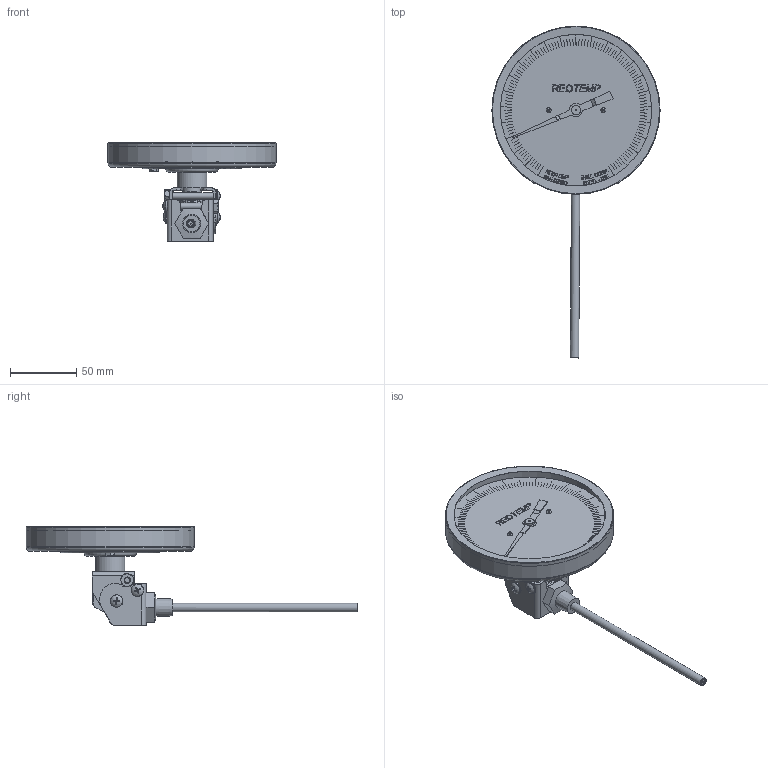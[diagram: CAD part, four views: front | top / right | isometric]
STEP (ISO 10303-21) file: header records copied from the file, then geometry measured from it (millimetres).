
FILE_DESCRIPTION(/* description */ (''),/* implementation_level */ '2;1');
FILE_NAME(/* name */ 'P:\3D Drawings\Bimet\JJ\JJ-quarter-NPT\JJ-quarter-NPT-STP\JJ-quarter-NPT-STP.stp',/* time_stamp */ '2015-11-09T15:15:04-08:00',/* author */ ('charles'),/* organization */ (''),/* preprocessor_version */ 'ST-DEVELOPER v15.2',/* originating_system */ 'Autodesk Inventor 2014',/* authorisation */ '');
FILE_SCHEMA (('AUTOMOTIVE_DESIGN { 1 0 10303 214 3 1 1 }'));
Length unit declared in the file: inch
Products named in the file (1): JJ-quarter-NPT
Bounding box: 127 x 250.48 x 74.36 mm (x, y, z)
Volume: 114205 mm3; surface area: 85850.8 mm2
Topology: 17 solids, 35 shells, 1722 faces, 4432 edges, 2915 vertices
Faces by surface type: plane 1204, bspline 213, cylinder 151, cone 88, torus 62, sphere 4
Full cylindrical faces by diameter (mm): 0.778 x1, 1.067 x1, 2.286 x2, 3.175 x1, 4.826 x6, 5.08 x2, 6.071 x1, 6.35 x1, 6.934 x1, 6.985 x1, 9.474 x4, 13.97 x3, 22.225 x1, 74.93 x1, 114.348 x1, 121.158 x1, 124.931 x1, 126.683 x1, 126.746 x1, 127 x1
Entity records: 55964 total; most frequent: CARTESIAN_POINT 14642, ORIENTED_EDGE 8590, DIRECTION 7129, EDGE_CURVE 4294, LINE 3121, VECTOR 3121, VERTEX_POINT 2867, EDGE_LOOP 2056
